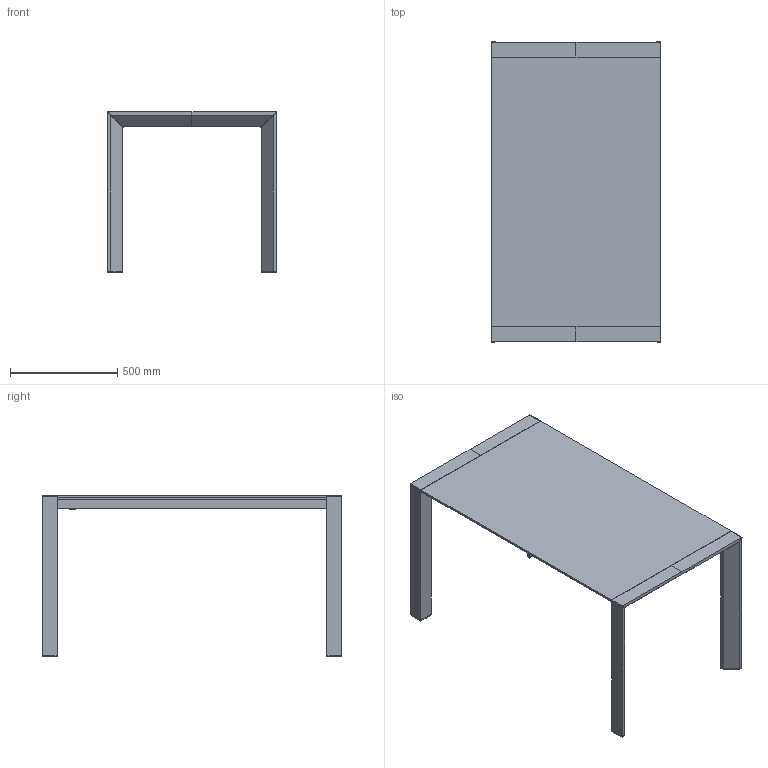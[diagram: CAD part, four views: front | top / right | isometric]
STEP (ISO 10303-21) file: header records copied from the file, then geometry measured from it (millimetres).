
FILE_DESCRIPTION(/* description */ (''),/* implementation_level */ '2;1');
FILE_NAME(/* name */ '10664 - Afill 140x79',/* time_stamp */ '2010-11-03T15:10:59+01:00',/* author */ (''),/* organization */ (''),/* preprocessor_version */ 'ST-DEVELOPER v10',/* originating_system */ '',/* authorisation */ '');
FILE_SCHEMA (('CONFIG_CONTROL_DESIGN'));
Length unit declared in the file: centimetre
Products named in the file (1): 1
Bounding box: 792.24 x 1400.6 x 751.1 mm (x, y, z)
Volume: 40711928.8 mm3; surface area: 5697242.4 mm2
Topology: 14 solids, 14 shells, 166 faces, 380 edges, 250 vertices
Faces by surface type: plane 166
Entity records: 4158 total; most frequent: CARTESIAN_POINT 1258, ORIENTED_EDGE 760, EDGE_CURVE 380, B_SPLINE_CURVE_WITH_KNOTS 380, VERTEX_POINT 250, EDGE_LOOP 174, DIRECTION 170, AXIS2_PLACEMENT_3D 168
